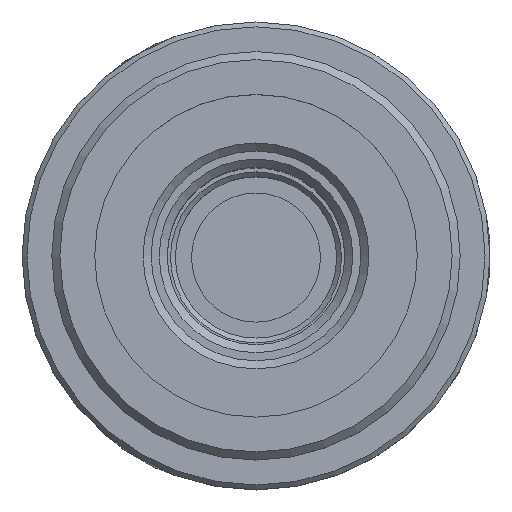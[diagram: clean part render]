
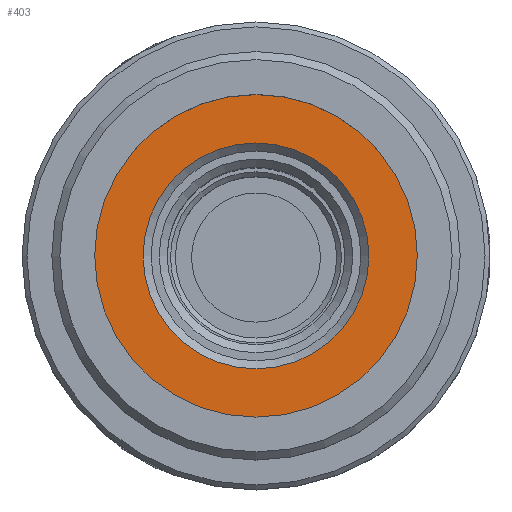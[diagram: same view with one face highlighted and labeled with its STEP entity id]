
A CAD part, top view. The second image highlights one B-rep face of the part: STEP entity #403.
In plain terms, the highlighted planar face has unit normal (0, 0, 1).
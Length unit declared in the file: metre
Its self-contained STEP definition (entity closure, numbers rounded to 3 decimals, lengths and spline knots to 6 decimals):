
#403=ADVANCED_FACE('NONE',(#884,#885),#886,.F.);
#884=FACE_BOUND('',#1486,.T.);
#885=FACE_OUTER_BOUND('',#1487,.T.);
#886=PLANE('',#1488);
#1486=EDGE_LOOP('',(#2353));
#1487=EDGE_LOOP('',(#2354));
#1488=AXIS2_PLACEMENT_3D('',#2355,#2356,#2357);
#2353=ORIENTED_EDGE('',*,*,#2865,.T.);
#2354=ORIENTED_EDGE('',*,*,#2867,.F.);
#2355=CARTESIAN_POINT('',(-0.013422,-0.001395,0.02407));
#2356=DIRECTION('',(0.,0.0,-1.0));
#2357=DIRECTION('',(-1.0,0.0,0.));
#2865=EDGE_CURVE('NONE',#3395,#3395,#3396,.T.);
#2867=EDGE_CURVE('NONE',#3398,#3398,#3399,.T.);
#3395=VERTEX_POINT('',#4373);
#3396=CIRCLE('',#4374,0.007);
#3398=VERTEX_POINT('',#4376);
#3399=CIRCLE('',#4377,0.01);
#4373=CARTESIAN_POINT('',(-0.003422,-0.008395,0.02407));
#4374=AXIS2_PLACEMENT_3D('',#4809,#4810,#4811);
#4376=CARTESIAN_POINT('',(-0.003422,-0.011395,0.02407));
#4377=AXIS2_PLACEMENT_3D('',#4812,#4813,#4814);
#4809=CARTESIAN_POINT('',(-0.003422,-0.001395,0.02407));
#4810=DIRECTION('',(0.,0.0,-1.0));
#4811=DIRECTION('',(0.,-1.0,0.));
#4812=CARTESIAN_POINT('',(-0.003422,-0.001395,0.02407));
#4813=DIRECTION('',(0.,0.,-1.0));
#4814=DIRECTION('',(0.,-1.0,0.));
